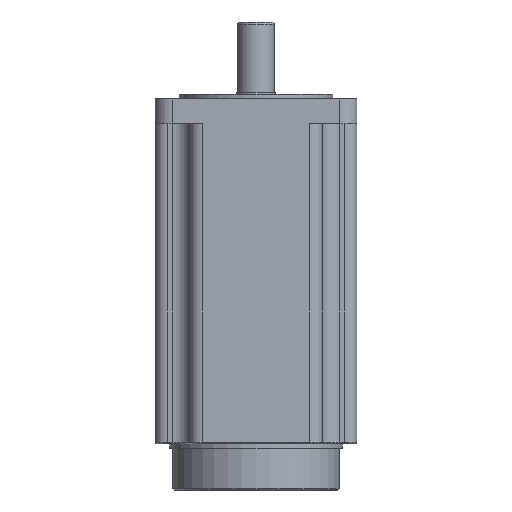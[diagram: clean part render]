
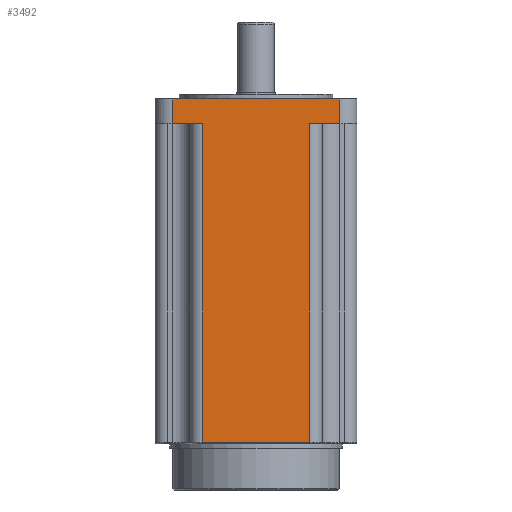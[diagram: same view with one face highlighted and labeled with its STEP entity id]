
A CAD part, front view. The second image highlights one B-rep face of the part: STEP entity #3492.
In plain terms, the highlighted planar face has unit normal (0, -1, 0).
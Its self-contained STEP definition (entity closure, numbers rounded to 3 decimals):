
#38 = CARTESIAN_POINT ( 'NONE',  ( -35., -65.5, -207. ) ) ;
#136 = VERTEX_POINT ( 'NONE', #4311 ) ;
#229 = CARTESIAN_POINT ( 'NONE',  ( -35., -65.5, -208. ) ) ;
#467 = LINE ( 'NONE', #4683, #4469 ) ;
#575 = CARTESIAN_POINT ( 'NONE',  ( -54.5, -65.5, 0. ) ) ;
#580 = VECTOR ( 'NONE', #2074, 1000. ) ;
#704 = DIRECTION ( 'NONE',  ( 0., 0., -1. ) ) ;
#750 = ORIENTED_EDGE ( 'NONE', *, *, #4642, .F. ) ;
#959 = LINE ( 'NONE', #4105, #1728 ) ;
#1105 = VECTOR ( 'NONE', #1361, 1000. ) ;
#1109 = CARTESIAN_POINT ( 'NONE',  ( -54.5, -65.5, 0. ) ) ;
#1215 = VECTOR ( 'NONE', #3682, 1000. ) ;
#1249 = VERTEX_POINT ( 'NONE', #1889 ) ;
#1361 = DIRECTION ( 'NONE',  ( 1., 0., 0. ) ) ;
#1392 = LINE ( 'NONE', #2045, #2518 ) ;
#1460 = LINE ( 'NONE', #575, #580 ) ;
#1483 = ORIENTED_EDGE ( 'NONE', *, *, #2635, .T. ) ;
#1579 = FACE_OUTER_BOUND ( 'NONE', #4407, .T. ) ;
#1626 = DIRECTION ( 'NONE',  ( 0., 0., 1. ) ) ;
#1728 = VECTOR ( 'NONE', #704, 1000. ) ;
#1785 = LINE ( 'NONE', #4625, #2779 ) ;
#1889 = CARTESIAN_POINT ( 'NONE',  ( 35., -65.5, 0. ) ) ;
#2009 = DIRECTION ( 'NONE',  ( 1., 0., 0. ) ) ;
#2045 = CARTESIAN_POINT ( 'NONE',  ( 35., -65.5, -208. ) ) ;
#2074 = DIRECTION ( 'NONE',  ( 1., 0., 0. ) ) ;
#2116 = LINE ( 'NONE', #2857, #1105 ) ;
#2215 = LINE ( 'NONE', #4784, #1215 ) ;
#2370 = CARTESIAN_POINT ( 'NONE',  ( -54.5, -65.5, 16. ) ) ;
#2406 = ORIENTED_EDGE ( 'NONE', *, *, #3106, .T. ) ;
#2491 = DIRECTION ( 'NONE',  ( 0., 0., 1. ) ) ;
#2518 = VECTOR ( 'NONE', #4658, 1000. ) ;
#2635 = EDGE_CURVE ( 'NONE', #4039, #4117, #467, .T. ) ;
#2645 = VERTEX_POINT ( 'NONE', #3574 ) ;
#2695 = EDGE_CURVE ( 'NONE', #3396, #4165, #4114, .T. ) ;
#2779 = VECTOR ( 'NONE', #2009, 1000. ) ;
#2818 = DIRECTION ( 'NONE',  ( 0., 0., -1. ) ) ;
#2857 = CARTESIAN_POINT ( 'NONE',  ( -54.5, -65.5, -207. ) ) ;
#3053 = EDGE_CURVE ( 'NONE', #1249, #136, #1460, .T. ) ;
#3106 = EDGE_CURVE ( 'NONE', #3396, #2645, #2116, .T. ) ;
#3155 = AXIS2_PLACEMENT_3D ( 'NONE', #2370, #3882, #1626 ) ;
#3232 = VECTOR ( 'NONE', #2491, 1000. ) ;
#3396 = VERTEX_POINT ( 'NONE', #38 ) ;
#3492 = ADVANCED_FACE ( 'NONE', ( #1579 ), #3499, .F. ) ;
#3499 = PLANE ( 'NONE',  #3155 ) ;
#3574 = CARTESIAN_POINT ( 'NONE',  ( 35., -65.5, -207. ) ) ;
#3642 = ORIENTED_EDGE ( 'NONE', *, *, #4431, .F. ) ;
#3682 = DIRECTION ( 'NONE',  ( 1., 0., 0. ) ) ;
#3774 = EDGE_CURVE ( 'NONE', #2645, #1249, #1392, .T. ) ;
#3794 = CARTESIAN_POINT ( 'NONE',  ( -35., -65.5, 0. ) ) ;
#3816 = VERTEX_POINT ( 'NONE', #3932 ) ;
#3882 = DIRECTION ( 'NONE',  ( 0., 1., 0. ) ) ;
#3932 = CARTESIAN_POINT ( 'NONE',  ( 54.5, -65.5, 16. ) ) ;
#4039 = VERTEX_POINT ( 'NONE', #4040 ) ;
#4040 = CARTESIAN_POINT ( 'NONE',  ( -54.5, -65.5, 16. ) ) ;
#4055 = EDGE_CURVE ( 'NONE', #4117, #4165, #2215, .T. ) ;
#4105 = CARTESIAN_POINT ( 'NONE',  ( 54.5, -65.5, 16. ) ) ;
#4114 = LINE ( 'NONE', #229, #3232 ) ;
#4117 = VERTEX_POINT ( 'NONE', #1109 ) ;
#4130 = ORIENTED_EDGE ( 'NONE', *, *, #3053, .T. ) ;
#4136 = ORIENTED_EDGE ( 'NONE', *, *, #4055, .T. ) ;
#4165 = VERTEX_POINT ( 'NONE', #3794 ) ;
#4233 = ORIENTED_EDGE ( 'NONE', *, *, #2695, .F. ) ;
#4311 = CARTESIAN_POINT ( 'NONE',  ( 54.5, -65.5, 0. ) ) ;
#4392 = ORIENTED_EDGE ( 'NONE', *, *, #3774, .T. ) ;
#4407 = EDGE_LOOP ( 'NONE', ( #4233, #2406, #4392, #4130, #3642, #750, #1483, #4136 ) ) ;
#4431 = EDGE_CURVE ( 'NONE', #3816, #136, #959, .T. ) ;
#4469 = VECTOR ( 'NONE', #2818, 1000. ) ;
#4625 = CARTESIAN_POINT ( 'NONE',  ( -54.5, -65.5, 16. ) ) ;
#4642 = EDGE_CURVE ( 'NONE', #4039, #3816, #1785, .T. ) ;
#4658 = DIRECTION ( 'NONE',  ( 0., 0., 1. ) ) ;
#4683 = CARTESIAN_POINT ( 'NONE',  ( -54.5, -65.5, 16. ) ) ;
#4784 = CARTESIAN_POINT ( 'NONE',  ( -54.5, -65.5, 0. ) ) ;
